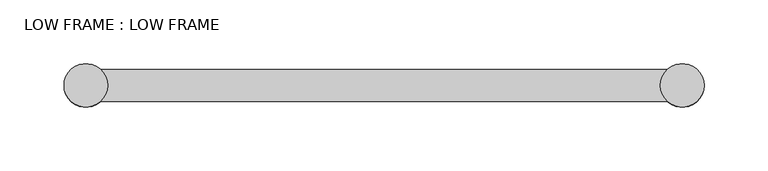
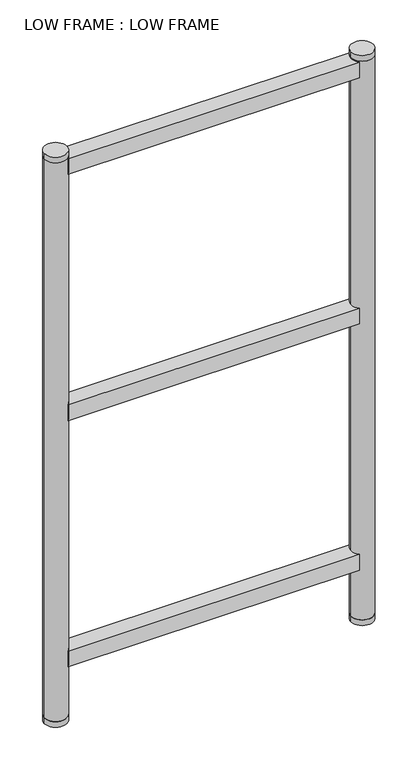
"""IFC4 building model written with IfcOpenShell, lengths in millimetres: furniture geometry, LOW FRAME : LOW FRAME."""

from ifc_helpers import new_model, si_unit, point, frame, frame_2d, origin, origin_with_axes, place, context, project, spatial, polyline, circle_curve, trimmed, segment, composite_curve, outline, extrude, source, transform, mapped, element, save


def low_frame_low_frame_fd0c7921(model_context):
    return source(origin(), model_context, "Body", "SweptSolid", [
        extrude(outline(composite_curve([segment(trimmed(circle_curve(frame_2d((233.0, 0.0)), 17.0), [point((221.4782814, 12.5))], [point((221.4782814, -12.5))], True, "CARTESIAN"), True, "CONTINUOUS"), segment(polyline([(221.4782814, -12.5), (-221.4782814, -12.5)]), True, "CONTINUOUS"), segment(trimmed(circle_curve(frame_2d((-233.0, 0.0)), 17.0), [point((-221.4782814, -12.5))], [point((-221.4782814, 12.5))], True, "CARTESIAN"), True, "CONTINUOUS"), segment(polyline([(-221.4782814, 12.5), (221.4782814, 12.5)]), True, "CONTINUOUS")], self_intersect=False)), frame((0.0, 0.0, 879.0), z_axis=(0.0, 0.0, 1.0), x_axis=(1.0, 0.0, 0.0)), (0.0, 0.0, 1.0), 25.0),
        extrude(outline(composite_curve([segment(trimmed(circle_curve(frame_2d((233.0, 0.0)), 17.0), [point((221.4782814, 12.5))], [point((221.4782814, -12.5))], True, "CARTESIAN"), True, "CONTINUOUS"), segment(polyline([(221.4782814, -12.5), (-221.4782814, -12.5)]), True, "CONTINUOUS"), segment(trimmed(circle_curve(frame_2d((-233.0, 0.0)), 17.0), [point((-221.4782814, -12.5))], [point((-221.4782814, 12.5))], True, "CARTESIAN"), True, "CONTINUOUS"), segment(polyline([(-221.4782814, 12.5), (221.4782814, 12.5)]), True, "CONTINUOUS")], self_intersect=False)), frame((0.0, 0.0, 484.0), z_axis=(0.0, 0.0, 1.0), x_axis=(1.0, 0.0, 0.0)), (0.0, 0.0, 1.0), 25.0),
        extrude(outline(composite_curve([segment(trimmed(circle_curve(frame_2d((233.0, 0.0)), 17.0), [point((221.4782814, 12.5))], [point((221.4782814, -12.5))], True, "CARTESIAN"), True, "CONTINUOUS"), segment(polyline([(221.4782814, -12.5), (-221.4782814, -12.5)]), True, "CONTINUOUS"), segment(trimmed(circle_curve(frame_2d((-233.0, 0.0)), 17.0), [point((-221.4782814, -12.5))], [point((-221.4782814, 12.5))], True, "CARTESIAN"), True, "CONTINUOUS"), segment(polyline([(-221.4782814, 12.5), (221.4782814, 12.5)]), True, "CONTINUOUS")], self_intersect=False)), frame((0.0, 0.0, 89.0), z_axis=(0.0, 0.0, 1.0), x_axis=(1.0, 0.0, 0.0)), (0.0, 0.0, 1.0), 25.0),
        extrude(outline(composite_curve([segment(trimmed(circle_curve(frame_2d((-233.0, 0.0)), 17.0), [point((-216.0, 0.0))], [point((-250.0, 0.0))], False, "CARTESIAN"), True, "CONTINUOUS"), segment(trimmed(circle_curve(frame_2d((-233.0, 0.0)), 17.0), [point((-250.0, 0.0))], [point((-216.0, 0.0))], False, "CARTESIAN"), True, "CONTINUOUS")], self_intersect=False)), frame((0.0, 0.0, 906.0), z_axis=(0.0, 0.0, 1.0), x_axis=(1.0, 0.0, 0.0)), (0.0, 0.0, 1.0), 9.0),
        extrude(outline(composite_curve([segment(trimmed(circle_curve(frame_2d((-233.0, 0.0)), 17.0), [point((-216.0, 0.0))], [point((-250.0, 0.0))], False, "CARTESIAN"), True, "CONTINUOUS"), segment(trimmed(circle_curve(frame_2d((-233.0, 0.0)), 17.0), [point((-250.0, 0.0))], [point((-216.0, 0.0))], False, "CARTESIAN"), True, "CONTINUOUS")], self_intersect=False)), origin_with_axes(), (0.0, 0.0, 1.0), 9.0),
        extrude(outline(composite_curve([segment(trimmed(circle_curve(frame_2d((-233.0, 0.0)), 17.0), [point((-216.0, 0.0))], [point((-250.0, 0.0))], False, "CARTESIAN"), True, "CONTINUOUS"), segment(trimmed(circle_curve(frame_2d((-233.0, 0.0)), 17.0), [point((-250.0, 0.0))], [point((-216.0, 0.0))], False, "CARTESIAN"), True, "CONTINUOUS")], self_intersect=False)), frame((0.0, 0.0, 9.0), z_axis=(0.0, 0.0, 1.0), x_axis=(1.0, 0.0, 0.0)), (0.0, 0.0, 1.0), 897.0),
        extrude(outline(composite_curve([segment(trimmed(circle_curve(frame_2d((233.0, 0.0)), 17.0), [point((216.0, 0.0))], [point((250.0, 0.0))], False, "CARTESIAN"), True, "CONTINUOUS"), segment(trimmed(circle_curve(frame_2d((233.0, 0.0)), 17.0), [point((250.0, 0.0))], [point((216.0, 0.0))], False, "CARTESIAN"), True, "CONTINUOUS")], self_intersect=False)), frame((0.0, 0.0, 906.0), z_axis=(0.0, 0.0, 1.0), x_axis=(1.0, 0.0, 0.0)), (0.0, 0.0, 1.0), 9.0),
        extrude(outline(composite_curve([segment(trimmed(circle_curve(frame_2d((233.0, 0.0)), 17.0), [point((216.0, 0.0))], [point((250.0, 0.0))], False, "CARTESIAN"), True, "CONTINUOUS"), segment(trimmed(circle_curve(frame_2d((233.0, 0.0)), 17.0), [point((250.0, 0.0))], [point((216.0, 0.0))], False, "CARTESIAN"), True, "CONTINUOUS")], self_intersect=False)), origin_with_axes(), (0.0, 0.0, 1.0), 9.0),
        extrude(outline(composite_curve([segment(trimmed(circle_curve(frame_2d((233.0, 0.0)), 17.0), [point((216.0, 0.0))], [point((250.0, 0.0))], False, "CARTESIAN"), True, "CONTINUOUS"), segment(trimmed(circle_curve(frame_2d((233.0, 0.0)), 17.0), [point((250.0, 0.0))], [point((216.0, 0.0))], False, "CARTESIAN"), True, "CONTINUOUS")], self_intersect=False)), frame((0.0, 0.0, 9.0), z_axis=(0.0, 0.0, 1.0), x_axis=(1.0, 0.0, 0.0)), (0.0, 0.0, 1.0), 897.0),
    ])


if __name__ == "__main__":
    model = new_model("IFC4")
    model_context = context("Model", 3, world=origin())
    ifc_project = project(units=[si_unit("LENGTHUNIT", "METRE", prefix="MILLI")], contexts=[model_context])
    site = spatial("IfcSite", under=ifc_project)
    building = spatial("IfcBuilding", under=site)
    placement = place(None, origin())
    low_frame_low_frame_shape = low_frame_low_frame_fd0c7921(model_context)
    element("IfcFurniture", 1, ObjectType="LOW FRAME : LOW FRAME", at=placement, inside=building, context=model_context, shape_type="MappedRepresentation", body=[
        mapped(low_frame_low_frame_shape, transform((0.0, 0.0, 0.0), x_axis=(1.0, 0.0, 0.0), y_axis=(0.0, 1.0, 0.0), z_axis=(0.0, 0.0, 1.0))),
    ])
    save(model, "model.ifc")
